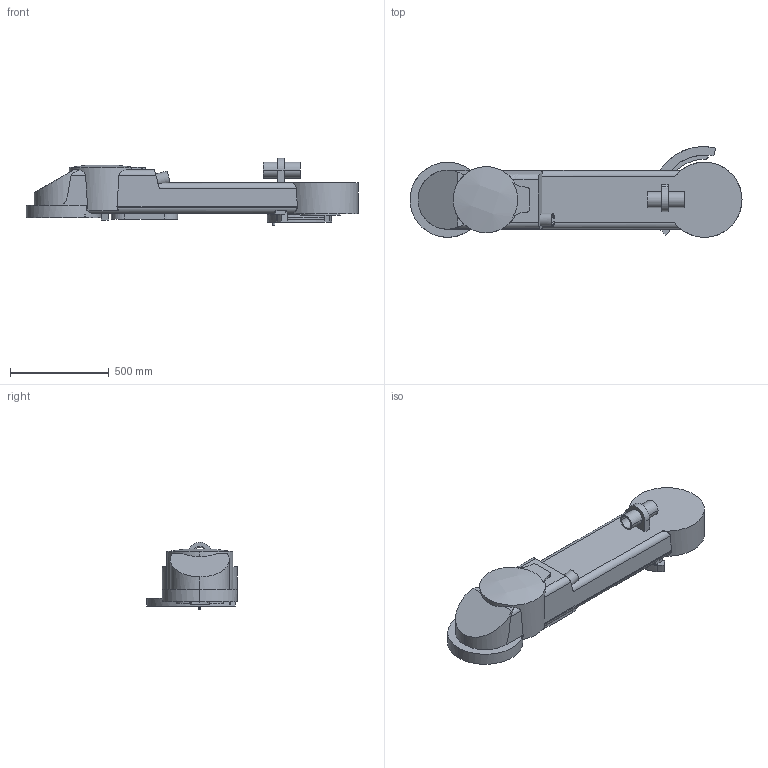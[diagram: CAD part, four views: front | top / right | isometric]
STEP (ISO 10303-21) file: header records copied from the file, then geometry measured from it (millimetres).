
FILE_DESCRIPTION (( 'STEP AP214' ), '1' );
FILE_NAME ('IRB5500_12_T00F71B41V31H51_rev1_3.step', '2006-09-01T12:42:00', ( 'Jonas Eriksson' ), ( '' ), 'SwSTEP 2.0', 'SolidWorks 2004334', '' );
FILE_SCHEMA (( 'AUTOMOTIVE_DESIGN' ));
Length unit declared in the file: millimetre
Products named in the file (1): IRB5500_12_T00F71B41V31H51_rev1_3
Bounding box: 1680.31 x 459.56 x 341.44 mm (x, y, z)
Volume: 92599602.4 mm3; surface area: 2035300.8 mm2
Topology: 1 solids, 1 shells, 239 faces, 597 edges, 395 vertices
Faces by surface type: cylinder 128, plane 96, bspline 15
Entity records: 11030 total; most frequent: CARTESIAN_POINT 2658, DIRECTION 1212, ORIENTED_EDGE 1194, EDGE_CURVE 597, AXIS2_PLACEMENT_3D 485, VERTEX_POINT 395, EDGE_LOOP 280, CIRCLE 260
